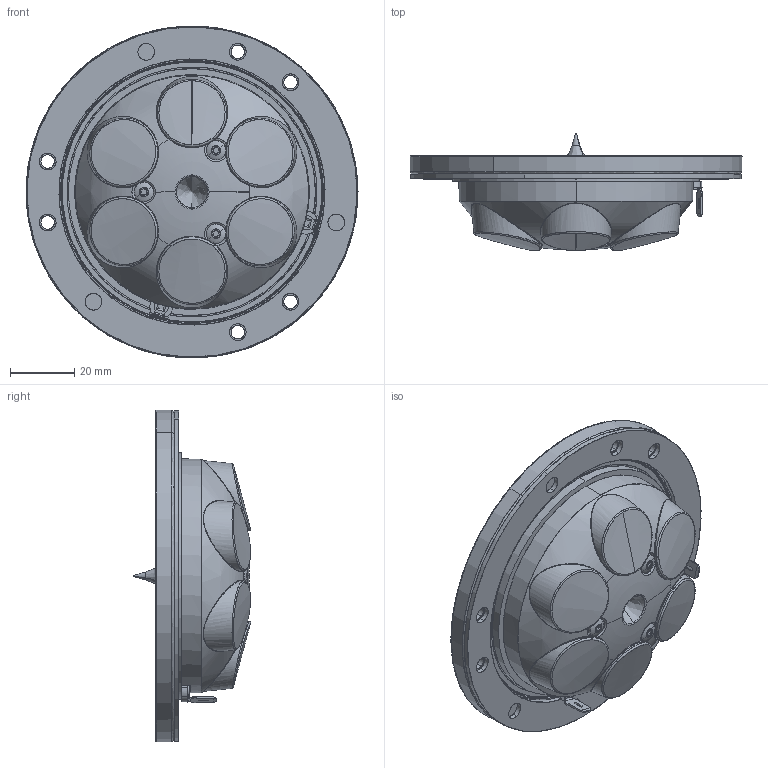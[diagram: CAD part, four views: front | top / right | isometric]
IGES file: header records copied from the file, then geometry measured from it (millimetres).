
Start section: SolidWorks IGES file using analytic representation for surfaces
Global section: file name: W:\TT\WEB 3D enheder\WEB R3004_662000\R3004-662000.IGS; native system: SolidWorks 2019; preprocessor: SolidWorks 2019; author: mhn; date: 201028.112029; units: millimetre
Bounding box: 103.55 x 36.54 x 103.55 mm (x, y, z)
Surface area: 42766 mm2 (no closed solid volume)
Topology: 0 solids, 0 shells, 702 faces, 10600 edges, 10584 vertices
Faces by surface type: bspline 417, revolution 285
